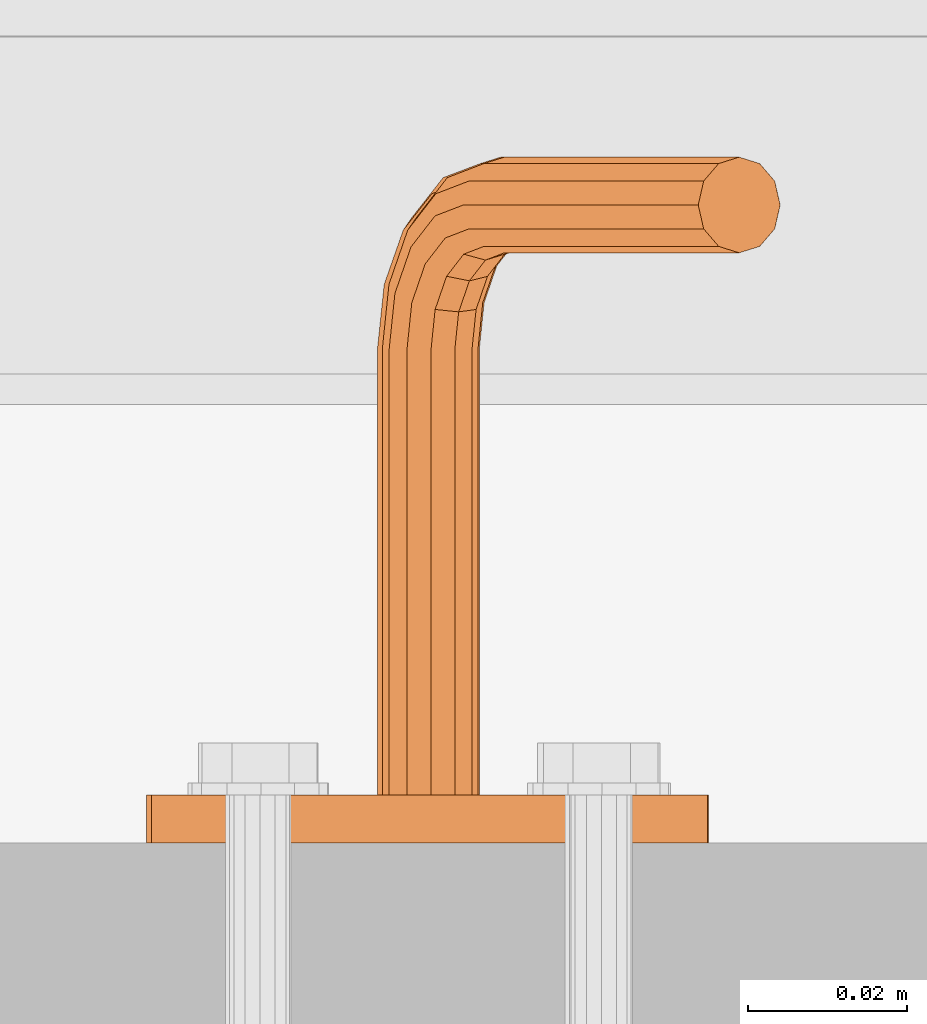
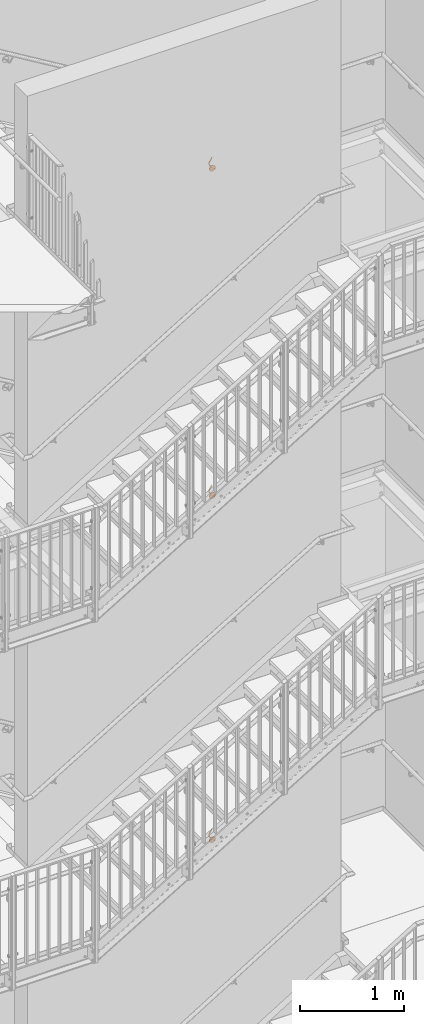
# One storey, part 390 of 410: 3 proxies.
"""IFC2X3 building model written with IfcOpenShell, lengths in millimetres."""

import ifcopenshell
import ifcopenshell.guid

model = None  # the IFC model being written
_history = None  # IfcOwnerHistory: only IFC2X3 demands one
_inside = {}  # id of a spatial element -> (the spatial element, [elements in it])
_under = {}  # id of a project, library or spatial element -> (it, [spatial elements below it])
_declared = {}  # id of a project -> (the project, [libraries it declares])
_typed = {}  # id of a type object -> (the type object, [elements of that type])
_made_of = {}  # id of a material, layer set ... -> (it, [elements and type objects made of it])


def new_model(schema):
    """Start an empty IFC model of exactly this schema.

    Asked for "IFC4X3", IfcOpenShell would pick the latest addendum, in which some entities
    have other attributes; the version numbers below select the first issue.
    IFC2X3 requires an IfcOwnerHistory on every rooted entity: one is made here for all.
    """
    global model, _history
    if schema == "IFC4X3":
        model = ifcopenshell.file(schema_version=(4, 3, 0, 0))
    else:
        model = ifcopenshell.file(schema=schema)
    _inside.clear()
    _under.clear()
    _declared.clear()
    _typed.clear()
    _made_of.clear()
    _history = None
    if model.schema == "IFC2X3":
        org = make("IfcOrganization", Name="unknown")
        user = make(
            "IfcPersonAndOrganization",
            ThePerson=make("IfcPerson", FamilyName="unknown"),
            TheOrganization=org,
        )
        app = make(
            "IfcApplication",
            ApplicationDeveloper=org,
            Version="unknown",
            ApplicationFullName="unknown",
            ApplicationIdentifier="unknown",
        )
        _history = make(
            "IfcOwnerHistory",
            OwningUser=user,
            OwningApplication=app,
            ChangeAction="ADDED",
            CreationDate=0,
        )
    return model


def make(cls, **values):
    """One entity of the class cls with the attributes given. An attribute that is None is left unset."""
    return model.create_entity(
        cls, **{name: value for name, value in values.items() if value is not None}
    )


def entity(cls, *values):
    """Any entity or typed value of the class cls, its attributes in the order of the schema. None: left unset."""
    e = model.create_entity(cls)
    for i, value in enumerate(values):
        if value is not None:
            e[i] = value
    return e


def rooted(cls, **values):
    """An entity with a GlobalId (a new one), such as an element, a storey or a relation."""
    return make(cls, GlobalId=ifcopenshell.guid.new(), OwnerHistory=_history, **values)


def si_unit(unit_type, name, prefix=None):
    """IfcSIUnit, for example si_unit("LENGTHUNIT", "METRE", prefix="MILLI")."""
    return make("IfcSIUnit", UnitType=unit_type, Prefix=prefix, Name=name)


def converted_unit(unit_type, name, factor, base, dimensions=None, offset=None):
    """IfcConversionBasedUnit, such as the inch: factor (a typed value) times the base unit."""
    return make(
        "IfcConversionBasedUnit"
        if offset is None
        else "IfcConversionBasedUnitWithOffset",
        ConversionOffset=offset,
        Dimensions=None
        if dimensions is None
        else entity("IfcDimensionalExponents", *dimensions),
        UnitType=unit_type,
        Name=name,
        ConversionFactor=make(
            "IfcMeasureWithUnit", ValueComponent=factor, UnitComponent=base
        ),
    )


def assignment(units):
    """IfcUnitAssignment: the units of a project."""
    return None if units is None else make("IfcUnitAssignment", Units=units)


def point(xyz):
    """IfcCartesianPoint."""
    return None if xyz is None else make("IfcCartesianPoint", Coordinates=xyz)


def direction(xyz):
    """IfcDirection."""
    return None if xyz is None else make("IfcDirection", DirectionRatios=xyz)


def frame(location, z_axis=None, x_axis=None):
    """IfcAxis2Placement3D, a coordinate frame: its origin and axes. An axis left out is left unset."""
    return make(
        "IfcAxis2Placement3D",
        Location=point(location),
        Axis=direction(z_axis),
        RefDirection=direction(x_axis),
    )


def origin_with_axes():
    """The frame at (0, 0, 0) with the z axis (0, 0, 1) and the x axis (1, 0, 0) written out."""
    return frame((0.0, 0.0, 0.0), z_axis=(0.0, 0.0, 1.0), x_axis=(1.0, 0.0, 0.0))


def place(relative_to, where):
    """IfcLocalPlacement: puts the frame where relative to a parent placement (None: the world)."""
    return make(
        "IfcLocalPlacement", PlacementRelTo=relative_to, RelativePlacement=where
    )


def context(
    kind, dimensions, precision=None, world=None, true_north=None, identifier=None
):
    """IfcGeometricRepresentationContext, for example the 3D "Model" context."""
    return make(
        "IfcGeometricRepresentationContext",
        ContextIdentifier=identifier,
        ContextType=kind,
        CoordinateSpaceDimension=dimensions,
        Precision=precision,
        WorldCoordinateSystem=world,
        TrueNorth=true_north,
    )


def project(units=None, contexts=None):
    """IfcProject with its units and contexts."""
    return rooted(
        "IfcProject",
        Name="project",
        RepresentationContexts=contexts,
        UnitsInContext=assignment(units),
    )


def spatial(cls, under=None, at=None, **own):
    """A site, building, storey or space (cls), placed at a placement, below another one or the project."""
    s = rooted(cls, ObjectPlacement=at, **own)
    if under is not None:
        _under.setdefault(under.id(), (under, []))[1].append(s)
    return s


def faces_of(points, faces, orient=None, outer=None):
    """IfcFace entities. A face is a list of loops; a loop is a list of indices into points, from 0.

    orient and outer hold one flag for each loop. By default every Orientation is true, the
    first loop of a face is its IfcFaceOuterBound and the others are IfcFaceBound.
    """
    made = []
    for i, loops in enumerate(faces):
        bounds = []
        for j, loop in enumerate(loops):
            is_outer = j == 0 if outer is None else outer[i][j]
            bounds.append(
                make(
                    "IfcFaceOuterBound" if is_outer else "IfcFaceBound",
                    Bound=make("IfcPolyLoop", Polygon=[points[k] for k in loop]),
                    Orientation=True if orient is None else orient[i][j],
                )
            )
        made.append(make("IfcFace", Bounds=bounds))
    return made


def faceted_brep(points, faces, orient=None, outer=None, voids=None):
    """IfcFacetedBrep: a solid bounded by flat faces; with voids (closed shells), ...WithVoids."""
    shared = [point(p) for p in points]
    hull = make("IfcClosedShell", CfsFaces=faces_of(shared, faces, orient, outer))
    if voids is None:
        return make("IfcFacetedBrep", Outer=hull)
    return make(
        "IfcFacetedBrepWithVoids",
        Outer=hull,
        Voids=[
            make(cls, CfsFaces=faces_of(shared, fs, o, b)) for cls, fs, o, b in voids
        ],
    )


def shape(context_of_items, identifier, shape_type, items):
    """IfcShapeRepresentation: the items that make up one representation, for example the "Body"."""
    return make(
        "IfcShapeRepresentation",
        ContextOfItems=context_of_items,
        RepresentationIdentifier=identifier,
        RepresentationType=shape_type,
        Items=items,
    )


def made_of(thing, what):
    """Note that an element or type object is made of a material, layer set ...; save() writes the relation."""
    if what is not None:
        _made_of.setdefault(what.id(), (what, []))[1].append(thing)
    return thing


def element(
    cls,
    number,
    at=None,
    inside=None,
    cuts=None,
    type_object=None,
    material=None,
    context=None,
    identifier="Body",
    shape_type=None,
    held_by="IfcProductDefinitionShape",
    body=None,
    shapes=None,
    **own,
):
    """One element of the class cls, such as IfcWall. Its Tag is "e" and its number.

    at: its placement. inside: the storey or other place that contains it. cuts: it is an
    opening in that element (IfcRelVoidsElement). A single representation is given by context,
    identifier, shape_type and body (its items); several are given by shapes. held_by: the class
    of the entity that holds the representations. save() writes the other relations.
    """
    e = rooted(cls, Tag="e%d" % number, ObjectPlacement=at, **own)
    if body is not None:
        shapes = [shape(context, identifier, shape_type, body)]
    if shapes is not None:
        e.Representation = make(held_by, Representations=shapes)
    if inside is not None:
        _inside.setdefault(inside.id(), (inside, []))[1].append(e)
    if cuts is not None:
        rooted(
            "IfcRelVoidsElement", RelatingBuildingElement=cuts, RelatedOpeningElement=e
        )
    if type_object is not None:
        _typed.setdefault(type_object.id(), (type_object, []))[1].append(e)
    return made_of(e, material)


def aggregate(whole, parts):
    """IfcRelAggregates: a whole, such as a stair, and the parts it consists of."""
    return rooted("IfcRelAggregates", RelatingObject=whole, RelatedObjects=parts)


def save(model, path):
    """Write the relations noted so far, then the file.

    IfcRelAggregates (storeys below a building ...), IfcRelContainedInSpatialStructure (elements
    in a storey), IfcRelDefinesByType, IfcRelAssociatesMaterial and IfcRelDeclares: one each for
    every whole, place, type object, material and project.
    """
    for whole, parts in _under.values():
        aggregate(whole, parts)
    for where, things in _inside.values():
        rooted(
            "IfcRelContainedInSpatialStructure",
            RelatedElements=things,
            RelatingStructure=where,
        )
    for kind, things in _typed.values():
        rooted("IfcRelDefinesByType", RelatedObjects=things, RelatingType=kind)
    for what, things in _made_of.values():
        rooted("IfcRelAssociatesMaterial", RelatedObjects=things, RelatingMaterial=what)
    for by, libraries in _declared.values():
        rooted("IfcRelDeclares", RelatingContext=by, RelatedDefinitions=libraries)
    model.write(path)


model = new_model("IFC2X3")

# Units and contexts
model_context = context("Model", 3, precision=1e-09, world=origin_with_axes())
ifc_project = project(units=[si_unit("LENGTHUNIT", "METRE", prefix="MILLI"), si_unit("AREAUNIT", "SQUARE_METRE"), si_unit("VOLUMEUNIT", "CUBIC_METRE"), converted_unit("PLANEANGLEUNIT", "DEGREE", entity("IfcPlaneAngleMeasure", 0.01745329), si_unit("PLANEANGLEUNIT", "RADIAN"), dimensions=[0, 0, 0, 0, 0, 0, 0])], contexts=[model_context])

# Site, building, storey
site_placement = place(None, origin_with_axes())
site = spatial("IfcSite", under=ifc_project, at=site_placement, Name="mKR Teilneubau & Sanierung BA1 - Ostfildern", CompositionType="ELEMENT")
building_placement = place(site_placement, origin_with_axes())
building = spatial("IfcBuilding", under=site, at=building_placement, Name="Struktur 1", CompositionType="ELEMENT")
storey_placement = place(building_placement, origin_with_axes())
storey = spatial("IfcBuildingStorey", under=building, at=storey_placement, Name="Default Storey", CompositionType="ELEMENT", Elevation=0.0)

# Proxies
proxy_1_placement = place(None, origin_with_axes())
element("IfcBuildingElementProxy", 1, at=proxy_1_placement, inside=storey, ObjectType="-", context=model_context, shape_type="Brep", body=[
    faceted_brep([(472.792057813, 17111.0, 7251.177598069), (472.792057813, 17105.0, 7251.177598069), (471.206638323, 17105.0, 7249.652384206), (471.206638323, 17111.0, 7249.652384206), (521.13641549, 17111.0, 7259.15035172), (527.778997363, 17111.0, 7249.736326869), (531.004936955, 17111.0, 7238.675537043), (530.464653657, 17111.0, 7227.166590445), (526.216695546, 17111.0, 7216.456660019), (518.721394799, 17111.0, 7207.706332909), (508.790983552, 17111.0, 7201.863842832), (497.50157595, 17111.0, 7199.562314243), (486.076554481, 17111.0, 7201.051153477), (475.753997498, 17111.0, 7206.169021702), (467.652514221, 17111.0, 7214.361318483), (462.650026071, 17111.0, 7224.740281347), (461.288630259, 17111.0, 7236.181188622), (463.715855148, 17111.0, 7247.444240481), (469.668673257, 17111.0, 7257.30891049), (478.502004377, 17111.0, 7264.706208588), (489.258620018, 17111.0, 7268.834522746), (500.77287397, 17111.0, 7269.246486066), (511.797018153, 17111.0, 7265.89745593), (515.601440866, 17111.0, 7225.344349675), (514.016021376, 17111.0, 7223.819135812), (513.405614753, 17111.0, 7221.705552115), (513.933778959, 17111.0, 7219.569931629), (515.458992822, 17111.0, 7217.984512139), (517.572576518, 17111.0, 7217.374105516), (519.708197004, 17111.0, 7217.902269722), (521.293616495, 17111.0, 7219.427483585), (521.904023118, 17111.0, 7221.541067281), (521.375858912, 17111.0, 7223.676687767), (519.850645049, 17111.0, 7225.262107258), (517.737061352, 17111.0, 7225.872513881), (470.596231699, 17111.0, 7247.538800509), (471.124395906, 17111.0, 7245.403180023), (472.649609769, 17111.0, 7243.817760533), (474.763193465, 17111.0, 7243.20735391), (476.898813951, 17111.0, 7243.735518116), (478.484233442, 17111.0, 7245.260731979), (479.094640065, 17111.0, 7247.374315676), (478.566475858, 17111.0, 7249.509936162), (477.041261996, 17111.0, 7251.095355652), (474.927678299, 17111.0, 7251.705762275), (474.927678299, 17105.0, 7251.705762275), (486.076554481, 17105.0, 7201.051153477), (497.50157595, 17105.0, 7199.562314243), (508.790983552, 17105.0, 7201.863842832), (518.721394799, 17105.0, 7207.706332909), (526.216695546, 17105.0, 7216.456660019), (530.464653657, 17105.0, 7227.166590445), (531.004936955, 17105.0, 7238.675537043), (527.778997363, 17105.0, 7249.736326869), (521.13641549, 17105.0, 7259.15035172), (511.797018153, 17105.0, 7265.89745593), (500.77287397, 17105.0, 7269.246486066), (489.258620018, 17105.0, 7268.834522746), (478.502004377, 17105.0, 7264.706208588), (469.668673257, 17105.0, 7257.30891049), (463.715855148, 17105.0, 7247.444240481), (461.288630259, 17105.0, 7236.181188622), (462.650026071, 17105.0, 7224.740281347), (467.652514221, 17105.0, 7214.361318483), (475.753997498, 17105.0, 7206.169021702), (513.405614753, 17105.0, 7221.705552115), (514.016021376, 17105.0, 7223.819135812), (515.601440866, 17105.0, 7225.344349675), (517.737061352, 17105.0, 7225.872513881), (519.850645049, 17105.0, 7225.262107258), (521.375858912, 17105.0, 7223.676687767), (521.904023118, 17105.0, 7221.541067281), (521.293616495, 17105.0, 7219.427483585), (519.708197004, 17105.0, 7217.902269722), (517.572576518, 17105.0, 7217.374105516), (515.458992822, 17105.0, 7217.984512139), (513.933778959, 17105.0, 7219.569931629), (477.041261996, 17105.0, 7251.095355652), (478.566475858, 17105.0, 7249.509936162), (479.094640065, 17105.0, 7247.374315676), (478.484233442, 17105.0, 7245.260731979), (476.898813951, 17105.0, 7243.735518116), (474.763193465, 17105.0, 7243.20735391), (472.649609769, 17105.0, 7243.817760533), (471.124395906, 17105.0, 7245.403180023), (470.596231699, 17105.0, 7247.538800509)], [[[0, 1, 2, 3]], [[4, 5, 6, 7, 8, 9, 10, 11, 12, 13, 14, 15, 16, 17, 18, 19, 20, 21, 22], [23, 24, 25, 26, 27, 28, 29, 30, 31, 32, 33, 34], [3, 35, 36, 37, 38, 39, 40, 41, 42, 43, 44, 0]], [[1, 0, 44, 45]], [[46, 47, 48, 49, 50, 51, 52, 53, 54, 55, 56, 57, 58, 59, 60, 61, 62, 63, 64], [65, 66, 67, 68, 69, 70, 71, 72, 73, 74, 75, 76], [1, 45, 77, 78, 79, 80, 81, 82, 83, 84, 85, 2]], [[3, 2, 85, 35]], [[59, 18, 17, 60]], [[35, 85, 84, 36]], [[45, 44, 43, 77]], [[18, 59, 58, 19]], [[36, 84, 83, 37]], [[60, 17, 16, 61]], [[77, 43, 42, 78]], [[57, 20, 19, 58]], [[37, 83, 82, 38]], [[20, 57, 56, 21]], [[15, 62, 61, 16]], [[78, 42, 41, 79]], [[62, 15, 14, 63]], [[38, 82, 81, 39]], [[79, 41, 40, 80]], [[21, 56, 55, 22]], [[39, 81, 80, 40]], [[63, 14, 13, 64]], [[22, 55, 54, 4]], [[66, 24, 23, 67]], [[64, 13, 12, 46]], [[24, 66, 65, 25]], [[67, 23, 34, 68]], [[4, 54, 53, 5]], [[46, 12, 11, 47]], [[25, 65, 76, 26]], [[68, 34, 33, 69]], [[5, 53, 52, 6]], [[47, 11, 10, 48]], [[26, 76, 75, 27]], [[69, 33, 32, 70]], [[6, 52, 51, 7]], [[48, 10, 9, 49]], [[27, 75, 74, 28]], [[50, 8, 7, 51]], [[70, 32, 31, 71]], [[8, 50, 49, 9]], [[28, 74, 73, 29]], [[71, 31, 30, 72]], [[29, 73, 72, 30]]]),
    faceted_brep([(501.387253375, 17111.0, 7231.439944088), (501.387253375, 17167.0, 7231.439944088), (502.249003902, 17167.0, 7234.423826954), (502.249003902, 17111.0, 7234.423826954), (539.448881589, 17188.0, 7296.069338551), (509.99897842, 17188.0, 7247.26664187), (508.118659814, 17190.196152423, 7248.401316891), (537.568562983, 17190.196152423, 7297.204013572), (540.137125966, 17185.0, 7295.654018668), (510.687222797, 17185.0, 7246.851321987), (505.846876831, 17186.401470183, 7240.386016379), (503.532336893, 17188.430450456, 7240.801124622), (490.251250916, 17111.0, 7234.656040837), (490.996894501, 17111.0, 7231.64104721), (493.150137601, 17111.0, 7229.402807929), (496.134020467, 17111.0, 7228.541057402), (499.149014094, 17111.0, 7229.286700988), (501.503360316, 17111.0, 7237.438820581), (499.350117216, 17111.0, 7239.677059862), (496.36623435, 17111.0, 7240.538810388), (493.351240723, 17111.0, 7239.793166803), (491.113001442, 17111.0, 7237.639923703), (499.149014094, 17167.0, 7229.286700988), (502.095171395, 17173.888301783, 7232.613065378), (502.838935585, 17172.740251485, 7235.401428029), (530.551118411, 17182.0, 7301.4386784), (532.431437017, 17179.803847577, 7300.304003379), (535.0, 17179.0, 7298.754008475), (537.568562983, 17179.803847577, 7297.204013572), (539.448881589, 17182.0, 7296.069338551), (535.0, 17191.0, 7298.754008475), (532.431437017, 17190.196152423, 7300.304003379), (530.551118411, 17188.0, 7301.4386784), (529.862874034, 17185.0, 7301.853998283), (507.128278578, 17183.629831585, 7240.953642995), (504.111151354, 17179.727922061, 7235.953832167), (502.32689507, 17181.849242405, 7234.552903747), (501.503360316, 17167.0, 7237.438820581), (499.974918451, 17175.03635208, 7230.655342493), (505.550096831, 17191.0, 7249.951311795), (509.99897842, 17182.0, 7247.26664187), (500.804837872, 17189.17310878, 7242.087739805), (499.644240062, 17183.402156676, 7234.35799273), (504.518918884, 17177.606601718, 7238.185400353), (502.006920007, 17171.899820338, 7238.273290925), (496.134020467, 17167.0, 7228.541057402), (507.033191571, 17180.858192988, 7242.351909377), (499.350117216, 17167.0, 7239.677059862), (497.046296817, 17175.876783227, 7230.052829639), (502.981533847, 17190.196152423, 7251.501306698), (508.118659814, 17179.803847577, 7248.401316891), (498.395210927, 17188.430450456, 7243.901114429), (496.782001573, 17183.970562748, 7235.421325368), (503.44093668, 17176.053687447, 7240.649661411), (499.822062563, 17171.592201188, 7240.459140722), (493.150137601, 17167.0, 7229.402807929), (505.587094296, 17178.829212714, 7244.206151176), (501.101215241, 17188.0, 7252.635981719), (496.36623435, 17167.0, 7240.538810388), (494.094028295, 17176.184402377, 7230.966969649), (505.550096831, 17179.0, 7249.951311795), (496.949113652, 17186.401470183, 7245.755356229), (494.507114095, 17183.402156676, 7237.457982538), (501.166049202, 17175.485281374, 7242.686318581), (496.86979404, 17171.899820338, 7241.373280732), (490.996894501, 17167.0, 7231.64104721), (503.177467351, 17178.08655439, 7246.0195258), (500.412970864, 17185.0, 7253.051301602), (493.351240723, 17167.0, 7239.793166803), (491.909170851, 17175.876783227, 7233.152819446), (502.981533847, 17179.803847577, 7251.501306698), (501.101215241, 17182.0, 7252.635981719), (496.854026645, 17183.629831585, 7247.15362261), (493.429131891, 17181.849242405, 7239.922243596), (498.303810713, 17176.053687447, 7243.749651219), (493.941172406, 17172.740251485, 7240.770767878), (491.113001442, 17167.0, 7237.639923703), (490.251250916, 17167.0, 7234.656040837), (500.44996833, 17178.829212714, 7247.306140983), (491.077155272, 17175.03635208, 7236.024682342), (498.135428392, 17180.858192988, 7247.721249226), (493.836899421, 17179.727922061, 7242.153811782), (491.820919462, 17173.888301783, 7238.813044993), (495.621155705, 17177.606601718, 7243.554740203)], [[[0, 1, 2, 3]], [[4, 5, 6, 7]], [[5, 4, 8, 9]], [[6, 5, 10, 11]], [[12, 13, 14, 15, 16, 0, 3, 17, 18, 19, 20, 21]], [[1, 0, 16, 22]], [[2, 1, 23, 24]], [[25, 26, 27, 28, 29, 8, 4, 7, 30, 31, 32, 33]], [[34, 10, 5, 9]], [[35, 36, 10, 34]], [[3, 2, 37, 17]], [[38, 23, 1, 22]], [[36, 35, 23, 38]], [[7, 6, 39, 30]], [[9, 8, 29, 40]], [[39, 6, 11, 41]], [[11, 10, 36, 42]], [[24, 23, 35, 43]], [[37, 2, 24, 44]], [[22, 16, 15, 45]], [[43, 35, 34, 46]], [[46, 34, 9, 40]], [[17, 37, 47, 18]], [[48, 38, 22, 45]], [[42, 36, 38, 48]], [[30, 39, 49, 31]], [[40, 29, 28, 50]], [[49, 39, 41, 51]], [[41, 11, 42, 52]], [[44, 24, 43, 53]], [[47, 37, 44, 54]], [[45, 15, 14, 55]], [[53, 43, 46, 56]], [[56, 46, 40, 50]], [[31, 49, 57, 32]], [[18, 47, 58, 19]], [[59, 48, 45, 55]], [[52, 42, 48, 59]], [[50, 28, 27, 60]], [[57, 49, 51, 61]], [[51, 41, 52, 62]], [[54, 44, 53, 63]], [[58, 47, 54, 64]], [[55, 14, 13, 65]], [[66, 56, 50, 60]], [[63, 53, 56, 66]], [[32, 57, 67, 33]], [[19, 58, 68, 20]], [[69, 59, 55, 65]], [[62, 52, 59, 69]], [[60, 27, 26, 70]], [[71, 25, 33, 67]], [[70, 26, 25, 71]], [[67, 57, 61, 72]], [[61, 51, 62, 73]], [[64, 54, 63, 74]], [[68, 58, 64, 75]], [[76, 21, 20, 68]], [[77, 12, 21, 76]], [[65, 13, 12, 77]], [[78, 66, 60, 70]], [[74, 63, 66, 78]], [[79, 69, 65, 77]], [[73, 62, 69, 79]], [[71, 67, 72, 80]], [[70, 71, 80, 78]], [[72, 61, 73, 81]], [[76, 68, 75, 82]], [[75, 64, 74, 83]], [[77, 76, 82, 79]], [[83, 74, 78, 80]], [[81, 73, 79, 82]], [[80, 72, 81, 83]], [[82, 75, 83, 81]]]),
])
proxy_2_placement = place(None, origin_with_axes())
element("IfcBuildingElementProxy", 2, at=proxy_2_placement, inside=storey, ObjectType="-", context=model_context, shape_type="Brep", body=[
    faceted_brep([(472.923230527, 17111.0, 3409.484296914), (472.923230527, 17105.0, 3409.484296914), (471.342014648, 17105.0, 3407.954725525), (471.342014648, 17111.0, 3407.954725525), (521.245462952, 17111.0, 3417.590070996), (527.913928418, 17111.0, 3408.194363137), (531.170296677, 17111.0, 3397.14249345), (530.661689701, 17111.0, 3385.632103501), (526.443222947, 17111.0, 3374.910522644), (518.972032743, 17111.0, 3366.139600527), (509.057738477, 17111.0, 3360.269802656), (497.774707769, 17111.0, 3357.937212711), (486.345632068, 17111.0, 3359.394603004), (476.009029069, 17111.0, 3364.484042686), (467.885030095, 17111.0, 3372.654011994), (462.853996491, 17111.0, 3383.019167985), (461.461118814, 17111.0, 3394.456285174), (463.857336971, 17111.0, 3405.72597445), (469.782983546, 17111.0, 3415.606990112), (478.595922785, 17111.0, 3423.028570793), (489.341135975, 17111.0, 3427.186473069), (500.854212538, 17111.0, 3427.630123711), (511.887531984, 17111.0, 3424.311446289), (470.737427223, 17111.0, 3405.839469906), (471.271466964, 17111.0, 3403.705311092), (472.801038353, 17111.0, 3402.124095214), (474.916293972, 17111.0, 3401.519507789), (477.050452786, 17111.0, 3402.053547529), (478.631668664, 17111.0, 3403.583118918), (479.23625609, 17111.0, 3405.698374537), (478.702216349, 17111.0, 3407.832533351), (477.17264496, 17111.0, 3409.41374923), (475.057389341, 17111.0, 3410.018336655), (515.803548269, 17111.0, 3383.768963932), (514.22233239, 17111.0, 3382.239392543), (513.617744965, 17111.0, 3380.124136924), (514.151784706, 17111.0, 3377.98997811), (515.681356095, 17111.0, 3376.408762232), (517.796611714, 17111.0, 3375.804174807), (519.930770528, 17111.0, 3376.338214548), (521.511986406, 17111.0, 3377.867785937), (522.116573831, 17111.0, 3379.983041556), (521.582534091, 17111.0, 3382.11720037), (520.052962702, 17111.0, 3383.698416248), (517.937707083, 17111.0, 3384.303003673), (475.057389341, 17105.0, 3410.018336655), (486.345632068, 17105.0, 3359.394603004), (497.774707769, 17105.0, 3357.937212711), (509.057738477, 17105.0, 3360.269802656), (518.972032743, 17105.0, 3366.139600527), (526.443222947, 17105.0, 3374.910522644), (530.661689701, 17105.0, 3385.632103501), (531.170296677, 17105.0, 3397.14249345), (527.913928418, 17105.0, 3408.194363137), (521.245462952, 17105.0, 3417.590070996), (511.887531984, 17105.0, 3424.311446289), (500.854212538, 17105.0, 3427.630123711), (489.341135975, 17105.0, 3427.186473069), (478.595922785, 17105.0, 3423.028570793), (469.782983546, 17105.0, 3415.606990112), (463.857336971, 17105.0, 3405.72597445), (461.461118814, 17105.0, 3394.456285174), (462.853996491, 17105.0, 3383.019167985), (467.885030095, 17105.0, 3372.654011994), (476.009029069, 17105.0, 3364.484042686), (477.17264496, 17105.0, 3409.41374923), (478.702216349, 17105.0, 3407.832533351), (479.23625609, 17105.0, 3405.698374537), (478.631668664, 17105.0, 3403.583118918), (477.050452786, 17105.0, 3402.053547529), (474.916293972, 17105.0, 3401.519507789), (472.801038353, 17105.0, 3402.124095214), (471.271466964, 17105.0, 3403.705311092), (470.737427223, 17105.0, 3405.839469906), (513.617744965, 17105.0, 3380.124136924), (514.22233239, 17105.0, 3382.239392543), (515.803548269, 17105.0, 3383.768963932), (517.937707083, 17105.0, 3384.303003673), (520.052962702, 17105.0, 3383.698416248), (521.582534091, 17105.0, 3382.11720037), (522.116573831, 17105.0, 3379.983041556), (521.511986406, 17105.0, 3377.867785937), (519.930770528, 17105.0, 3376.338214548), (517.796611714, 17105.0, 3375.804174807), (515.681356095, 17105.0, 3376.408762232), (514.151784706, 17105.0, 3377.98997811)], [[[0, 1, 2, 3]], [[4, 5, 6, 7, 8, 9, 10, 11, 12, 13, 14, 15, 16, 17, 18, 19, 20, 21, 22], [3, 23, 24, 25, 26, 27, 28, 29, 30, 31, 32, 0], [33, 34, 35, 36, 37, 38, 39, 40, 41, 42, 43, 44]], [[1, 0, 32, 45]], [[46, 47, 48, 49, 50, 51, 52, 53, 54, 55, 56, 57, 58, 59, 60, 61, 62, 63, 64], [1, 45, 65, 66, 67, 68, 69, 70, 71, 72, 73, 2], [74, 75, 76, 77, 78, 79, 80, 81, 82, 83, 84, 85]], [[3, 2, 73, 23]], [[59, 18, 17, 60]], [[23, 73, 72, 24]], [[45, 32, 31, 65]], [[18, 59, 58, 19]], [[24, 72, 71, 25]], [[60, 17, 16, 61]], [[65, 31, 30, 66]], [[57, 20, 19, 58]], [[25, 71, 70, 26]], [[20, 57, 56, 21]], [[15, 62, 61, 16]], [[66, 30, 29, 67]], [[62, 15, 14, 63]], [[26, 70, 69, 27]], [[67, 29, 28, 68]], [[21, 56, 55, 22]], [[27, 69, 68, 28]], [[63, 14, 13, 64]], [[22, 55, 54, 4]], [[75, 34, 33, 76]], [[64, 13, 12, 46]], [[34, 75, 74, 35]], [[76, 33, 44, 77]], [[4, 54, 53, 5]], [[46, 12, 11, 47]], [[35, 74, 85, 36]], [[77, 44, 43, 78]], [[5, 53, 52, 6]], [[47, 11, 10, 48]], [[36, 85, 84, 37]], [[78, 43, 42, 79]], [[6, 52, 51, 7]], [[48, 10, 9, 49]], [[37, 84, 83, 38]], [[50, 8, 7, 51]], [[79, 42, 41, 80]], [[8, 50, 49, 9]], [[38, 83, 82, 39]], [[80, 41, 40, 81]], [[39, 82, 81, 40]]]),
    faceted_brep([(501.572638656, 17111.0, 3389.825415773), (501.572638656, 17167.0, 3389.825415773), (502.426173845, 17167.0, 3392.811659), (502.426173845, 17111.0, 3392.811659), (539.456253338, 17188.0, 3454.559316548), (510.140773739, 17188.0, 3405.675754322), (508.257339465, 17190.196152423, 3406.805250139), (537.572819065, 17190.196152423, 3455.688812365), (540.145638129, 17185.0, 3454.145892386), (510.83015853, 17185.0, 3405.26233016), (506.007624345, 17186.401470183, 3398.783727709), (503.691950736, 17188.430450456, 3399.192464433), (490.42782721, 17111.0, 3393.010852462), (491.181765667, 17111.0, 3389.997922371), (493.341160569, 17111.0, 3387.765617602), (496.327403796, 17111.0, 3386.912082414), (499.340333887, 17111.0, 3387.666020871), (501.672235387, 17111.0, 3395.82458909), (499.512840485, 17111.0, 3398.05689386), (496.526597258, 17111.0, 3398.910429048), (493.513667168, 17111.0, 3398.156490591), (491.281362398, 17111.0, 3395.997095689), (499.340333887, 17167.0, 3387.666020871), (502.277325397, 17173.888301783, 3391.000480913), (503.013412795, 17172.740251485, 3393.79087995), (530.543746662, 17182.0, 3459.904148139), (532.427180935, 17179.803847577, 3458.774652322), (535.0, 17179.0, 3457.231732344), (537.572819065, 17179.803847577, 3455.688812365), (539.456253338, 17182.0, 3454.559316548), (535.0, 17191.0, 3457.231732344), (532.427180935, 17190.196152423, 3458.774652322), (530.543746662, 17188.0, 3459.904148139), (529.854361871, 17185.0, 3460.317572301), (507.287459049, 17183.629831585, 3399.354878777), (504.28410345, 17179.727922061, 3394.346783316), (502.50370948, 17181.849242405, 3392.940949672), (501.672235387, 17167.0, 3395.82458909), (500.162468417, 17175.03635208, 3389.036930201), (505.684520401, 17191.0, 3408.348170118), (510.140773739, 17182.0, 3405.675754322), (500.960921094, 17189.17310878, 3400.471568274), (499.821601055, 17183.402156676, 3392.738656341), (504.68572784, 17177.606601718, 3396.579465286), (502.173496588, 17171.899820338, 3396.660442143), (496.327403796, 17167.0, 3386.912082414), (507.188524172, 17180.858192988, 3400.75287817), (499.512840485, 17167.0, 3398.05689386), (497.235516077, 17175.876783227, 3388.426359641), (503.111701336, 17190.196152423, 3409.891090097), (508.257339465, 17179.803847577, 3406.805250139), (498.546312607, 17188.430450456, 3402.278304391), (496.956446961, 17183.970562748, 3393.79410766), (503.600967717, 17176.053687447, 3399.04075025), (499.982631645, 17171.592201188, 3398.84027062), (493.341160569, 17167.0, 3387.765617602), (505.737329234, 17178.829212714, 3402.603133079), (501.228267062, 17188.0, 3411.020585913), (496.526597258, 17167.0, 3398.910429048), (494.28074289, 17176.184402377, 3389.332371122), (505.684520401, 17179.0, 3408.348170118), (497.095117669, 17186.401470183, 3404.1285593), (494.675962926, 17183.402156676, 3395.824496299), (501.320483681, 17175.485281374, 3401.071138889), (497.027858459, 17171.899820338, 3399.746282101), (491.181765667, 17167.0, 3389.997922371), (503.322720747, 17178.08655439, 3404.409869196), (500.538882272, 17185.0, 3411.434010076), (493.513667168, 17167.0, 3398.156490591), (492.089877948, 17175.876783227, 3391.512199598), (503.111701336, 17179.803847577, 3409.891090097), (501.228267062, 17182.0, 3411.020585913), (496.996182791, 17183.629831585, 3405.526558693), (493.591202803, 17181.849242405, 3398.285781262), (498.455329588, 17176.053687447, 3402.126590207), (494.100906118, 17172.740251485, 3399.135711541), (491.281362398, 17167.0, 3395.997095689), (490.42782721, 17167.0, 3393.010852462), (500.591691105, 17178.829212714, 3405.688973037), (491.249961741, 17175.03635208, 3394.381761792), (498.276017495, 17180.858192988, 3406.097709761), (493.992827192, 17179.727922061, 3400.518463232), (491.986049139, 17173.888301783, 3397.172160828), (495.773221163, 17177.606601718, 3401.924296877)], [[[0, 1, 2, 3]], [[4, 5, 6, 7]], [[5, 4, 8, 9]], [[6, 5, 10, 11]], [[12, 13, 14, 15, 16, 0, 3, 17, 18, 19, 20, 21]], [[1, 0, 16, 22]], [[2, 1, 23, 24]], [[25, 26, 27, 28, 29, 8, 4, 7, 30, 31, 32, 33]], [[34, 10, 5, 9]], [[35, 36, 10, 34]], [[3, 2, 37, 17]], [[38, 23, 1, 22]], [[36, 35, 23, 38]], [[7, 6, 39, 30]], [[9, 8, 29, 40]], [[39, 6, 11, 41]], [[11, 10, 36, 42]], [[24, 23, 35, 43]], [[37, 2, 24, 44]], [[22, 16, 15, 45]], [[43, 35, 34, 46]], [[46, 34, 9, 40]], [[17, 37, 47, 18]], [[48, 38, 22, 45]], [[42, 36, 38, 48]], [[30, 39, 49, 31]], [[40, 29, 28, 50]], [[49, 39, 41, 51]], [[41, 11, 42, 52]], [[44, 24, 43, 53]], [[47, 37, 44, 54]], [[45, 15, 14, 55]], [[53, 43, 46, 56]], [[56, 46, 40, 50]], [[31, 49, 57, 32]], [[18, 47, 58, 19]], [[59, 48, 45, 55]], [[52, 42, 48, 59]], [[50, 28, 27, 60]], [[57, 49, 51, 61]], [[51, 41, 52, 62]], [[54, 44, 53, 63]], [[58, 47, 54, 64]], [[55, 14, 13, 65]], [[66, 56, 50, 60]], [[63, 53, 56, 66]], [[32, 57, 67, 33]], [[19, 58, 68, 20]], [[69, 59, 55, 65]], [[62, 52, 59, 69]], [[60, 27, 26, 70]], [[71, 25, 33, 67]], [[70, 26, 25, 71]], [[67, 57, 61, 72]], [[61, 51, 62, 73]], [[64, 54, 63, 74]], [[68, 58, 64, 75]], [[76, 21, 20, 68]], [[77, 12, 21, 76]], [[65, 13, 12, 77]], [[78, 66, 60, 70]], [[74, 63, 66, 78]], [[79, 69, 65, 77]], [[73, 62, 69, 79]], [[71, 67, 72, 80]], [[70, 71, 80, 78]], [[72, 61, 73, 81]], [[76, 68, 75, 82]], [[75, 64, 74, 83]], [[77, 76, 82, 79]], [[83, 74, 78, 80]], [[81, 73, 79, 82]], [[80, 72, 81, 83]], [[82, 75, 83, 81]]]),
])
proxy_3_placement = place(None, origin_with_axes())
element("IfcBuildingElementProxy", 3, at=proxy_3_placement, inside=storey, ObjectType="-", context=model_context, shape_type="Brep", body=[
    faceted_brep([(472.340549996, 17111.0, -627.867207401), (472.340549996, 17105.0, -627.867207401), (470.740637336, 17105.0, -629.377211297), (470.740637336, 17111.0, -629.377211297), (520.758841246, 17111.0, -620.356495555), (527.311218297, 17111.0, -629.833526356), (530.431382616, 17111.0, -640.924618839), (529.781215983, 17111.0, -652.427881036), (525.431174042, 17111.0, -663.096755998), (517.852651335, 17111.0, -671.775105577), (507.866898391, 17111.0, -677.522495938), (496.556026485, 17111.0, -679.716108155), (485.145744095, 17111.0, -678.118230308), (474.872532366, 17111.0, -672.902017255), (466.849653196, 17111.0, -664.632726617), (461.946510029, 17111.0, -654.206464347), (460.694434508, 17111.0, -642.753077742), (463.229108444, 17111.0, -631.513718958), (469.275860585, 17111.0, -621.706346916), (478.179431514, 17111.0, -614.393742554), (488.974981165, 17111.0, -610.368340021), (500.492644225, 17111.0, -610.066354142), (511.484303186, 17111.0, -613.520509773), (514.90127895, 17111.0, -654.108098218), (513.30136629, 17111.0, -655.618102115), (512.670803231, 17111.0, -657.725760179), (513.178548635, 17111.0, -659.866327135), (514.688552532, 17111.0, -661.466239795), (516.796210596, 17111.0, -662.096802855), (518.936777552, 17111.0, -661.58905745), (520.536690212, 17111.0, -660.079053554), (521.167253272, 17111.0, -657.971395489), (520.659507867, 17111.0, -655.830828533), (519.149503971, 17111.0, -654.230915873), (517.041845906, 17111.0, -653.600352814), (470.110074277, 17111.0, -631.484869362), (470.617819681, 17111.0, -633.625436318), (472.127823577, 17111.0, -635.225348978), (474.235481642, 17111.0, -635.855912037), (476.376048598, 17111.0, -635.348166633), (477.975961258, 17111.0, -633.838162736), (478.606524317, 17111.0, -631.730504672), (478.098778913, 17111.0, -629.589937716), (476.588775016, 17111.0, -627.990025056), (474.481116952, 17111.0, -627.359461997), (474.481116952, 17105.0, -627.359461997), (485.145744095, 17105.0, -678.118230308), (496.556026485, 17105.0, -679.716108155), (507.866898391, 17105.0, -677.522495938), (517.852651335, 17105.0, -671.775105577), (525.431174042, 17105.0, -663.096755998), (529.781215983, 17105.0, -652.427881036), (530.431382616, 17105.0, -640.924618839), (527.311218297, 17105.0, -629.833526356), (520.758841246, 17105.0, -620.356495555), (511.484303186, 17105.0, -613.520509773), (500.492644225, 17105.0, -610.066354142), (488.974981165, 17105.0, -610.368340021), (478.179431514, 17105.0, -614.393742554), (469.275860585, 17105.0, -621.706346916), (463.229108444, 17105.0, -631.513718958), (460.694434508, 17105.0, -642.753077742), (461.946510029, 17105.0, -654.206464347), (466.849653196, 17105.0, -664.632726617), (474.872532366, 17105.0, -672.902017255), (512.670803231, 17105.0, -657.725760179), (513.30136629, 17105.0, -655.618102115), (514.90127895, 17105.0, -654.108098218), (517.041845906, 17105.0, -653.600352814), (519.149503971, 17105.0, -654.230915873), (520.659507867, 17105.0, -655.830828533), (521.167253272, 17105.0, -657.971395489), (520.536690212, 17105.0, -660.079053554), (518.936777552, 17105.0, -661.58905745), (516.796210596, 17105.0, -662.096802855), (514.688552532, 17105.0, -661.466239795), (513.178548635, 17105.0, -659.866327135), (476.588775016, 17105.0, -627.990025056), (478.098778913, 17105.0, -629.589937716), (478.606524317, 17105.0, -631.730504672), (477.975961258, 17105.0, -633.838162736), (476.376048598, 17105.0, -635.348166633), (474.235481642, 17105.0, -635.855912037), (472.127823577, 17105.0, -635.225348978), (470.617819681, 17105.0, -633.625436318), (470.110074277, 17105.0, -631.484869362)], [[[0, 1, 2, 3]], [[4, 5, 6, 7, 8, 9, 10, 11, 12, 13, 14, 15, 16, 17, 18, 19, 20, 21, 22], [23, 24, 25, 26, 27, 28, 29, 30, 31, 32, 33, 34], [3, 35, 36, 37, 38, 39, 40, 41, 42, 43, 44, 0]], [[1, 0, 44, 45]], [[46, 47, 48, 49, 50, 51, 52, 53, 54, 55, 56, 57, 58, 59, 60, 61, 62, 63, 64], [65, 66, 67, 68, 69, 70, 71, 72, 73, 74, 75, 76], [1, 45, 77, 78, 79, 80, 81, 82, 83, 84, 85, 2]], [[3, 2, 85, 35]], [[59, 18, 17, 60]], [[35, 85, 84, 36]], [[45, 44, 43, 77]], [[18, 59, 58, 19]], [[36, 84, 83, 37]], [[60, 17, 16, 61]], [[77, 43, 42, 78]], [[57, 20, 19, 58]], [[37, 83, 82, 38]], [[20, 57, 56, 21]], [[15, 62, 61, 16]], [[78, 42, 41, 79]], [[62, 15, 14, 63]], [[38, 82, 81, 39]], [[79, 41, 40, 80]], [[21, 56, 55, 22]], [[39, 81, 80, 40]], [[63, 14, 13, 64]], [[22, 55, 54, 4]], [[66, 24, 23, 67]], [[64, 13, 12, 46]], [[24, 66, 65, 25]], [[67, 23, 34, 68]], [[4, 54, 53, 5]], [[46, 12, 11, 47]], [[25, 65, 76, 26]], [[68, 34, 33, 69]], [[5, 53, 52, 6]], [[47, 11, 10, 48]], [[26, 76, 75, 27]], [[69, 33, 32, 70]], [[6, 52, 51, 7]], [[48, 10, 9, 49]], [[27, 75, 74, 28]], [[50, 8, 7, 51]], [[70, 32, 31, 71]], [[8, 50, 49, 9]], [[28, 74, 73, 29]], [[71, 31, 30, 72]], [[29, 73, 72, 30]]]),
    faceted_brep([(500.745951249, 17111.0, -647.877039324), (500.745951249, 17167.0, -647.877039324), (501.63615792, 17167.0, -644.901522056), (501.63615792, 17111.0, -644.901522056), (539.423040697, 17188.0, -583.614072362), (509.508425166, 17188.0, -632.13330337), (507.639028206, 17190.196152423, -630.980723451), (537.553643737, 17190.196152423, -582.461492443), (540.107287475, 17185.0, -584.035945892), (510.192671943, 17185.0, -632.5551769), (505.290804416, 17186.401470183, -638.973963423), (502.980334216, 17188.430450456, -638.536770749), (489.641169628, 17111.0, -644.554742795), (490.357986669, 17111.0, -647.576719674), (492.489756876, 17111.0, -649.8354199), (495.465274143, 17111.0, -650.725626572), (498.487251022, 17111.0, -650.008809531), (500.919340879, 17111.0, -641.879545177), (498.787570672, 17111.0, -639.620844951), (495.812053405, 17111.0, -638.730638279), (492.790076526, 17111.0, -639.44745532), (490.5313763, 17111.0, -641.579225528), (498.487251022, 17167.0, -650.008809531), (501.465040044, 17173.888301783, -646.710731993), (502.235398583, 17172.740251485, -643.929599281), (530.576959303, 17182.0, -578.160005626), (532.446356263, 17179.803847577, -579.312585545), (535.0, 17179.0, -580.887038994), (537.553643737, 17179.803847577, -582.461492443), (539.423040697, 17182.0, -583.614072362), (535.0, 17191.0, -580.887038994), (532.446356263, 17190.196152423, -579.312585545), (530.576959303, 17188.0, -578.160005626), (529.892712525, 17185.0, -577.738132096), (506.577568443, 17183.629831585, -638.418599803), (503.51283168, 17179.727922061, -643.38936972), (501.715278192, 17181.849242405, -644.773194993), (500.919340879, 17167.0, -641.879545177), (499.32618795, 17175.03635208, -648.648117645), (505.085384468, 17191.0, -629.406270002), (509.508425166, 17182.0, -632.13330337), (500.265246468, 17189.17310878, -637.224167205), (499.030884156, 17183.402156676, -644.942478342), (503.941891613, 17177.606601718, -641.161797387), (501.43084662, 17171.899820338, -641.049921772), (495.465274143, 17167.0, -650.725626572), (506.495838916, 17180.858192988, -637.019489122), (498.787570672, 17167.0, -639.620844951), (496.391945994, 17175.876783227, -649.222635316), (502.531740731, 17190.196152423, -627.831816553), (507.639028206, 17179.803847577, -630.980723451), (497.873046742, 17188.430450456, -635.387863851), (496.178930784, 17183.970562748, -643.851860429), (502.88749173, 17176.053687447, -638.687354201), (499.266963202, 17171.592201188, -638.843306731), (492.489756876, 17167.0, -649.8354199), (505.067515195, 17178.829212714, -635.151521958), (500.662343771, 17188.0, -626.679236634), (495.812053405, 17167.0, -638.730638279), (493.448541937, 17176.184402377, -648.280343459), (505.085384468, 17179.0, -629.406270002), (496.444723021, 17186.401470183, -633.519896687), (493.923596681, 17183.402156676, -641.793571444), (500.632157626, 17175.485281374, -636.629065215), (496.323559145, 17171.899820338, -637.901014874), (490.357986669, 17167.0, -647.576719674), (502.675315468, 17178.08655439, -633.315218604), (499.978096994, 17185.0, -626.257363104), (492.790076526, 17167.0, -639.44745532), (491.284658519, 17175.876783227, -646.073728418), (502.531740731, 17179.803847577, -627.831816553), (500.662343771, 17182.0, -626.679236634), (496.362993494, 17183.629831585, -632.120786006), (492.869196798, 17181.849242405, -639.319128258), (497.780204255, 17176.053687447, -635.538447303), (493.389317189, 17172.740251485, -638.475532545), (490.5313763, 17167.0, -641.579225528), (489.641169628, 17167.0, -644.554742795), (499.960227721, 17178.829212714, -632.00261506), (490.480106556, 17175.03635208, -643.194050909), (497.649757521, 17180.858192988, -631.565422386), (493.298256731, 17179.727922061, -637.091555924), (491.250465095, 17173.888301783, -640.412918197), (495.095810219, 17177.606601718, -635.707730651)], [[[0, 1, 2, 3]], [[4, 5, 6, 7]], [[5, 4, 8, 9]], [[6, 5, 10, 11]], [[12, 13, 14, 15, 16, 0, 3, 17, 18, 19, 20, 21]], [[1, 0, 16, 22]], [[2, 1, 23, 24]], [[25, 26, 27, 28, 29, 8, 4, 7, 30, 31, 32, 33]], [[34, 10, 5, 9]], [[35, 36, 10, 34]], [[3, 2, 37, 17]], [[38, 23, 1, 22]], [[36, 35, 23, 38]], [[7, 6, 39, 30]], [[9, 8, 29, 40]], [[39, 6, 11, 41]], [[11, 10, 36, 42]], [[24, 23, 35, 43]], [[37, 2, 24, 44]], [[22, 16, 15, 45]], [[43, 35, 34, 46]], [[46, 34, 9, 40]], [[17, 37, 47, 18]], [[48, 38, 22, 45]], [[42, 36, 38, 48]], [[30, 39, 49, 31]], [[40, 29, 28, 50]], [[49, 39, 41, 51]], [[41, 11, 42, 52]], [[44, 24, 43, 53]], [[47, 37, 44, 54]], [[45, 15, 14, 55]], [[53, 43, 46, 56]], [[56, 46, 40, 50]], [[31, 49, 57, 32]], [[18, 47, 58, 19]], [[59, 48, 45, 55]], [[52, 42, 48, 59]], [[50, 28, 27, 60]], [[57, 49, 51, 61]], [[51, 41, 52, 62]], [[54, 44, 53, 63]], [[58, 47, 54, 64]], [[55, 14, 13, 65]], [[66, 56, 50, 60]], [[63, 53, 56, 66]], [[32, 57, 67, 33]], [[19, 58, 68, 20]], [[69, 59, 55, 65]], [[62, 52, 59, 69]], [[60, 27, 26, 70]], [[71, 25, 33, 67]], [[70, 26, 25, 71]], [[67, 57, 61, 72]], [[61, 51, 62, 73]], [[64, 54, 63, 74]], [[68, 58, 64, 75]], [[76, 21, 20, 68]], [[77, 12, 21, 76]], [[65, 13, 12, 77]], [[78, 66, 60, 70]], [[74, 63, 66, 78]], [[79, 69, 65, 77]], [[73, 62, 69, 79]], [[71, 67, 72, 80]], [[70, 71, 80, 78]], [[72, 61, 73, 81]], [[76, 68, 75, 82]], [[75, 64, 74, 83]], [[77, 76, 82, 79]], [[83, 74, 78, 80]], [[81, 73, 79, 82]], [[80, 72, 81, 83]], [[82, 75, 83, 81]]]),
])

save(model, "model.ifc")
